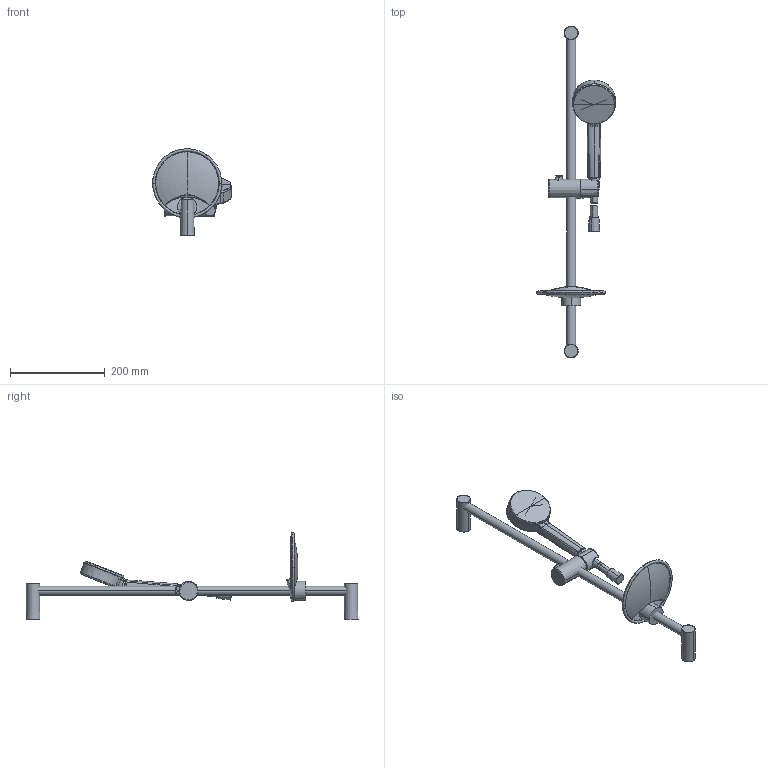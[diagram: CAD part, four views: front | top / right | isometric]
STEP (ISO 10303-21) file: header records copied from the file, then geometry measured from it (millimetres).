
FILE_DESCRIPTION (( 'STEP AP203' ), '1' );
FILE_NAME ('1691NU(2025).STEP', '2024-11-26T11:57:30', ( '' ), ( '' ), 'SwSTEP 2.0', 'SolidWorks 2024', '' );
FILE_SCHEMA (( 'CONFIG_CONTROL_DESIGN' ));
Length unit declared in the file: millimetre
Products named in the file (1): 1691NU(2025)
Bounding box: 166.26 x 700 x 182.8 mm (x, y, z)
Volume: 823714.7 mm3; surface area: 170046.3 mm2
Topology: 11 solids, 11 shells, 278 faces, 661 edges, 393 vertices
Faces by surface type: bspline 192, cylinder 29, plane 24, cone 21, torus 12
Entity records: 26153 total; most frequent: CARTESIAN_POINT 21243, ORIENTED_EDGE 1290, EDGE_CURVE 645, DIRECTION 604, VERTEX_POINT 393, B_SPLINE_CURVE_WITH_KNOTS 321, EDGE_LOOP 282, FACE_OUTER_BOUND 278
